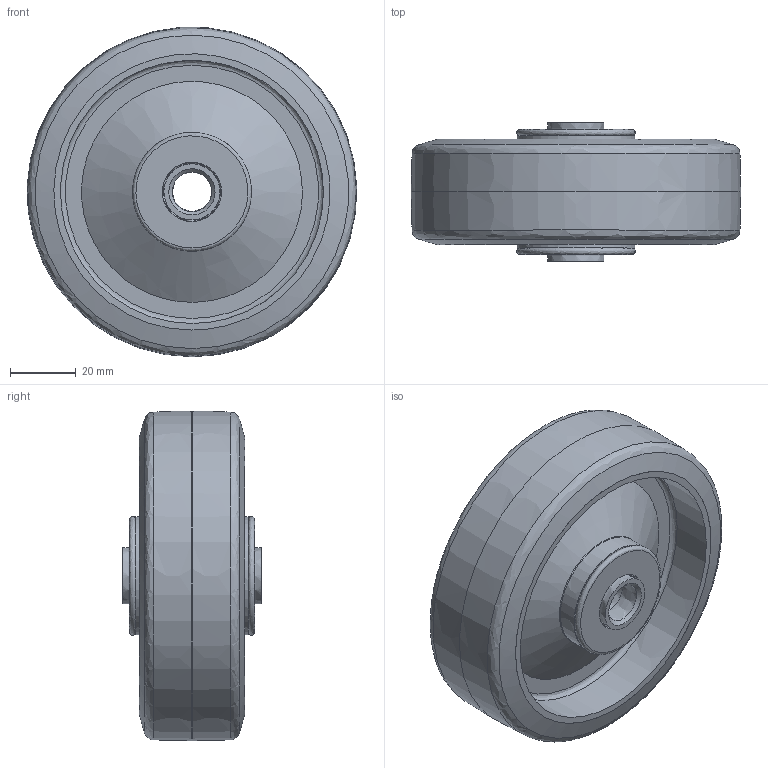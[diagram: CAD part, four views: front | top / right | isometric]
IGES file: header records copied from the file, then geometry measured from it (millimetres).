
Start section: JAMA-IS VERSION  1.0
Global section: file name: C:\CAM-TOOL data\ToolsFile\INOAC車輪\2月\P-100W\P-100W-ALL.igs; native system: CAM-TOOL; preprocessor: C3out Version 11.1.1.50212 (2015/02/12); author: NONE; organization: NONE; date: 250128.145501; units: millimetre
Bounding box: 99.93 x 42 x 99.92 mm (x, y, z)
Surface area: 75296.9 mm2 (no closed solid volume)
Topology: 0 solids, 0 shells, 298 faces, 4725 edges, 4758 vertices
Faces by surface type: bspline 298
